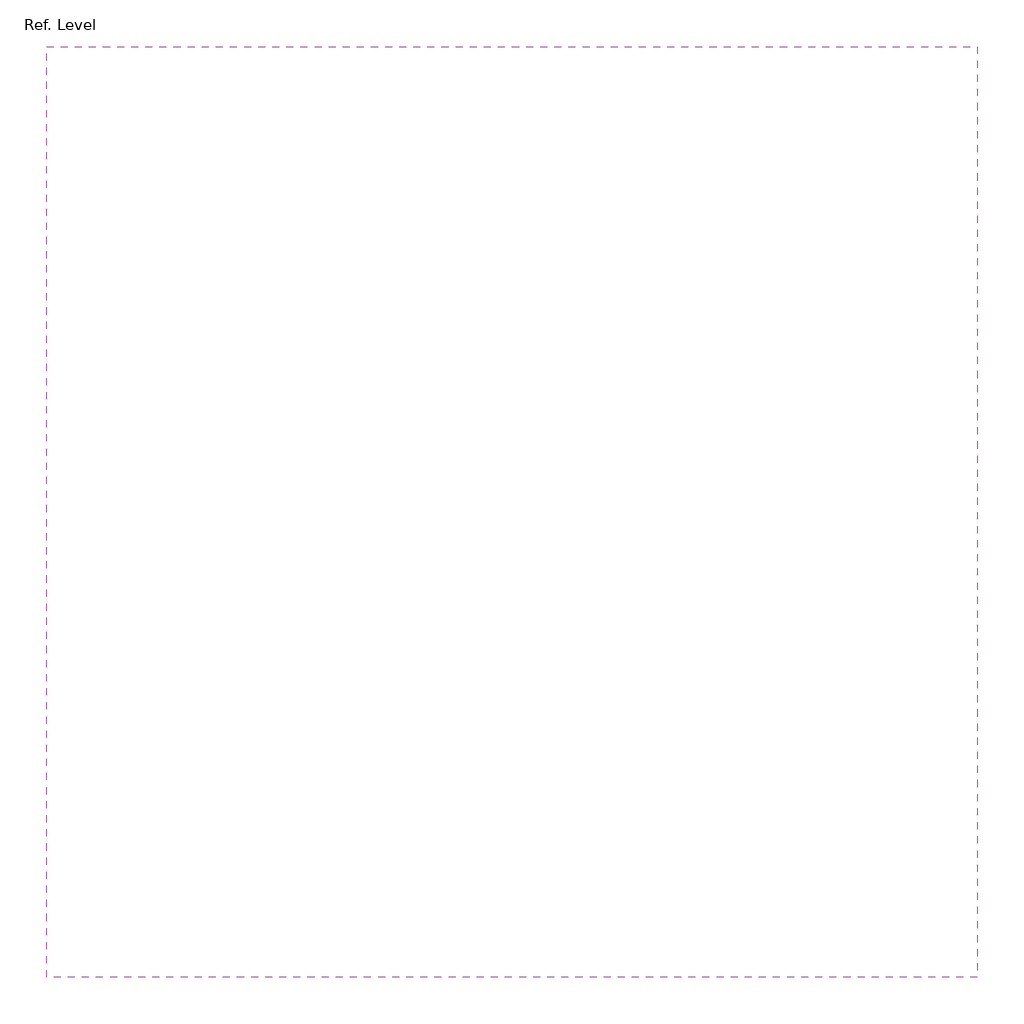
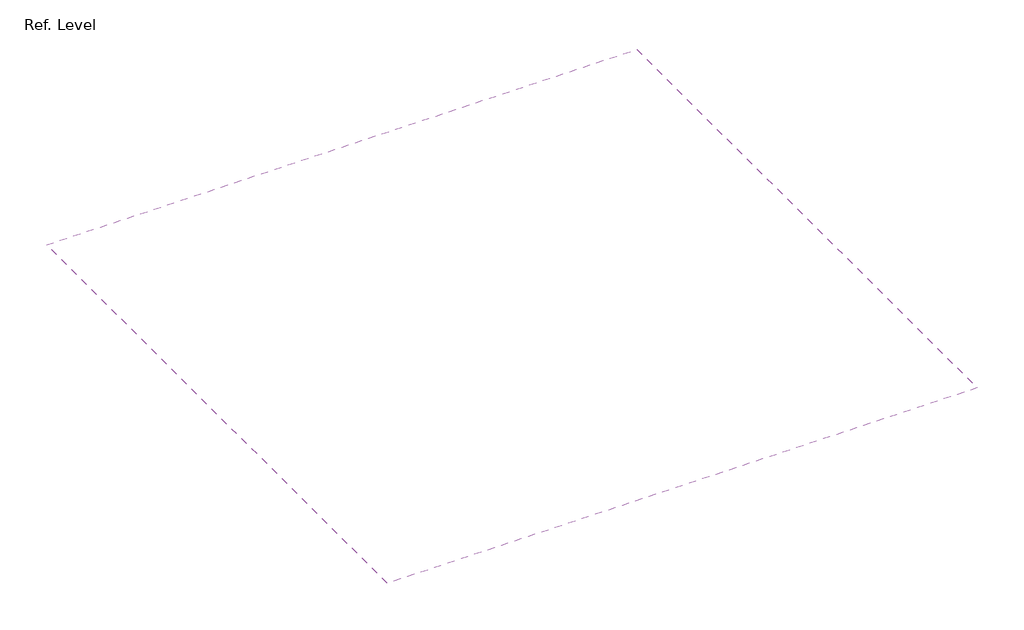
# One storey: 1 covering.
"""IFC4 building model written with IfcOpenShell, lengths in millimetres."""

import ifcopenshell
import ifcopenshell.guid

model = None  # the IFC model being written
_history = None  # IfcOwnerHistory: only IFC2X3 demands one
_inside = {}  # id of a spatial element -> (the spatial element, [elements in it])
_under = {}  # id of a project, library or spatial element -> (it, [spatial elements below it])
_declared = {}  # id of a project -> (the project, [libraries it declares])
_typed = {}  # id of a type object -> (the type object, [elements of that type])
_made_of = {}  # id of a material, layer set ... -> (it, [elements and type objects made of it])


def new_model(schema):
    """Start an empty IFC model of exactly this schema.

    Asked for "IFC4X3", IfcOpenShell would pick the latest addendum, in which some entities
    have other attributes; the version numbers below select the first issue.
    IFC2X3 requires an IfcOwnerHistory on every rooted entity: one is made here for all.
    """
    global model, _history
    if schema == "IFC4X3":
        model = ifcopenshell.file(schema_version=(4, 3, 0, 0))
    else:
        model = ifcopenshell.file(schema=schema)
    _inside.clear()
    _under.clear()
    _declared.clear()
    _typed.clear()
    _made_of.clear()
    _history = None
    if model.schema == "IFC2X3":
        org = make("IfcOrganization", Name="unknown")
        user = make(
            "IfcPersonAndOrganization",
            ThePerson=make("IfcPerson", FamilyName="unknown"),
            TheOrganization=org,
        )
        app = make(
            "IfcApplication",
            ApplicationDeveloper=org,
            Version="unknown",
            ApplicationFullName="unknown",
            ApplicationIdentifier="unknown",
        )
        _history = make(
            "IfcOwnerHistory",
            OwningUser=user,
            OwningApplication=app,
            ChangeAction="ADDED",
            CreationDate=0,
        )
    return model


def make(cls, **values):
    """One entity of the class cls with the attributes given. An attribute that is None is left unset."""
    return model.create_entity(
        cls, **{name: value for name, value in values.items() if value is not None}
    )


def rooted(cls, **values):
    """An entity with a GlobalId (a new one), such as an element, a storey or a relation."""
    return make(cls, GlobalId=ifcopenshell.guid.new(), OwnerHistory=_history, **values)


def si_unit(unit_type, name, prefix=None):
    """IfcSIUnit, for example si_unit("LENGTHUNIT", "METRE", prefix="MILLI")."""
    return make("IfcSIUnit", UnitType=unit_type, Prefix=prefix, Name=name)


def assignment(units):
    """IfcUnitAssignment: the units of a project."""
    return None if units is None else make("IfcUnitAssignment", Units=units)


def point(xyz):
    """IfcCartesianPoint."""
    return None if xyz is None else make("IfcCartesianPoint", Coordinates=xyz)


def direction(xyz):
    """IfcDirection."""
    return None if xyz is None else make("IfcDirection", DirectionRatios=xyz)


def frame(location, z_axis=None, x_axis=None):
    """IfcAxis2Placement3D, a coordinate frame: its origin and axes. An axis left out is left unset."""
    return make(
        "IfcAxis2Placement3D",
        Location=point(location),
        Axis=direction(z_axis),
        RefDirection=direction(x_axis),
    )


def origin():
    """The frame at (0, 0, 0) with its axes left unset."""
    return frame((0.0, 0.0, 0.0))


def place(relative_to, where):
    """IfcLocalPlacement: puts the frame where relative to a parent placement (None: the world)."""
    return make(
        "IfcLocalPlacement", PlacementRelTo=relative_to, RelativePlacement=where
    )


def context(
    kind, dimensions, precision=None, world=None, true_north=None, identifier=None
):
    """IfcGeometricRepresentationContext, for example the 3D "Model" context."""
    return make(
        "IfcGeometricRepresentationContext",
        ContextIdentifier=identifier,
        ContextType=kind,
        CoordinateSpaceDimension=dimensions,
        Precision=precision,
        WorldCoordinateSystem=world,
        TrueNorth=true_north,
    )


def project(units=None, contexts=None):
    """IfcProject with its units and contexts."""
    return rooted(
        "IfcProject",
        Name="project",
        RepresentationContexts=contexts,
        UnitsInContext=assignment(units),
    )


def spatial(cls, under=None, at=None, **own):
    """A site, building, storey or space (cls), placed at a placement, below another one or the project."""
    s = rooted(cls, ObjectPlacement=at, **own)
    if under is not None:
        _under.setdefault(under.id(), (under, []))[1].append(s)
    return s


def polyline(points):
    """IfcPolyline through the points."""
    return make("IfcPolyline", Points=[point(p) for p in points])


def outline(outer, holes=None, kind="AREA"):
    """IfcArbitraryClosedProfileDef: a profile drawn as a closed curve; with holes, ...WithVoids."""
    if holes is None:
        return make("IfcArbitraryClosedProfileDef", ProfileType=kind, OuterCurve=outer)
    return make(
        "IfcArbitraryProfileDefWithVoids",
        ProfileType=kind,
        OuterCurve=outer,
        InnerCurves=holes,
    )


def extrude(swept, where, along, depth):
    """IfcExtrudedAreaSolid: the profile swept, set in the frame where, extruded along a direction by depth."""
    return make(
        "IfcExtrudedAreaSolid",
        SweptArea=swept,
        Position=where,
        ExtrudedDirection=direction(along),
        Depth=depth,
    )


def shape(context_of_items, identifier, shape_type, items):
    """IfcShapeRepresentation: the items that make up one representation, for example the "Body"."""
    return make(
        "IfcShapeRepresentation",
        ContextOfItems=context_of_items,
        RepresentationIdentifier=identifier,
        RepresentationType=shape_type,
        Items=items,
    )


def made_of(thing, what):
    """Note that an element or type object is made of a material, layer set ...; save() writes the relation."""
    if what is not None:
        _made_of.setdefault(what.id(), (what, []))[1].append(thing)
    return thing


def element(
    cls,
    number,
    at=None,
    inside=None,
    cuts=None,
    type_object=None,
    material=None,
    context=None,
    identifier="Body",
    shape_type=None,
    held_by="IfcProductDefinitionShape",
    body=None,
    shapes=None,
    **own,
):
    """One element of the class cls, such as IfcWall. Its Tag is "e" and its number.

    at: its placement. inside: the storey or other place that contains it. cuts: it is an
    opening in that element (IfcRelVoidsElement). A single representation is given by context,
    identifier, shape_type and body (its items); several are given by shapes. held_by: the class
    of the entity that holds the representations. save() writes the other relations.
    """
    e = rooted(cls, Tag="e%d" % number, ObjectPlacement=at, **own)
    if body is not None:
        shapes = [shape(context, identifier, shape_type, body)]
    if shapes is not None:
        e.Representation = make(held_by, Representations=shapes)
    if inside is not None:
        _inside.setdefault(inside.id(), (inside, []))[1].append(e)
    if cuts is not None:
        rooted(
            "IfcRelVoidsElement", RelatingBuildingElement=cuts, RelatedOpeningElement=e
        )
    if type_object is not None:
        _typed.setdefault(type_object.id(), (type_object, []))[1].append(e)
    return made_of(e, material)


def aggregate(whole, parts):
    """IfcRelAggregates: a whole, such as a stair, and the parts it consists of."""
    return rooted("IfcRelAggregates", RelatingObject=whole, RelatedObjects=parts)


def save(model, path):
    """Write the relations noted so far, then the file.

    IfcRelAggregates (storeys below a building ...), IfcRelContainedInSpatialStructure (elements
    in a storey), IfcRelDefinesByType, IfcRelAssociatesMaterial and IfcRelDeclares: one each for
    every whole, place, type object, material and project.
    """
    for whole, parts in _under.values():
        aggregate(whole, parts)
    for where, things in _inside.values():
        rooted(
            "IfcRelContainedInSpatialStructure",
            RelatedElements=things,
            RelatingStructure=where,
        )
    for kind, things in _typed.values():
        rooted("IfcRelDefinesByType", RelatedObjects=things, RelatingType=kind)
    for what, things in _made_of.values():
        rooted("IfcRelAssociatesMaterial", RelatedObjects=things, RelatingMaterial=what)
    for by, libraries in _declared.values():
        rooted("IfcRelDeclares", RelatingContext=by, RelatedDefinitions=libraries)
    model.write(path)


model = new_model("IFC4")

# Units and contexts
model_context = context("Model", 3, world=origin())
ifc_project = project(units=[si_unit("LENGTHUNIT", "METRE", prefix="MILLI")], contexts=[model_context])

# Site, building, storey
site = spatial("IfcSite", under=ifc_project)
building = spatial("IfcBuilding", under=site)
storey = spatial("IfcBuildingStorey", under=building, Name="Ref. Level", Elevation=0.0)

# Covering
placement = place(None, origin())
element("IfcCovering", 1, ObjectType="ACT - Armstrong Ceilings - DesignFlex - METALWORKS Torsion Spring Shapes - Pattern TSSH 7", at=placement, inside=storey, context=model_context, shape_type="SweptSolid", body=[
    extrude(outline(polyline([(24166.9933174, -1931.717161), (24166.9933174, -14123.717161), (11974.9933174, -14123.717161), (11974.9933174, -1931.717161), (24166.9933174, -1931.717161)])), frame((0.0, 0.0, 2438.4), z_axis=(0.0, 0.0, 1.0), x_axis=(1.0, 0.0, 0.0)), (0.0, 0.0, 1.0), 62.0117188),
])

save(model, "model.ifc")
